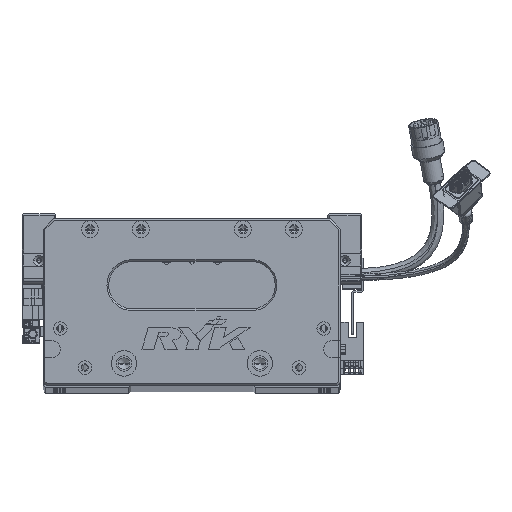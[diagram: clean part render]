
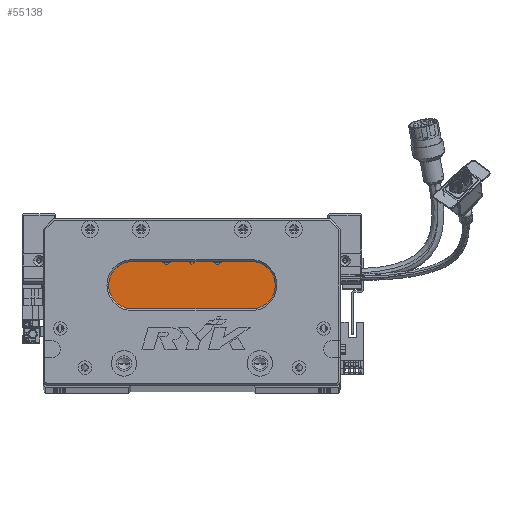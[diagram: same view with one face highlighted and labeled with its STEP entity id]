
A CAD part, top view. The second image highlights one B-rep face of the part: STEP entity #55138.
In plain terms, the highlighted planar face has unit normal (0, 0, 1) as drawn and (0, 0, -1) by its records, which use the part's own axes.
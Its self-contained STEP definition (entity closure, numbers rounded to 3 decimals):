
#622 = VERTEX_POINT ( 'NONE', #48852 ) ;
#1845 = DIRECTION ( 'NONE',  ( -1., 0., 0. ) ) ;
#5445 = EDGE_CURVE ( 'NONE', #97020, #65671, #70111, .T. ) ;
#12237 = CIRCLE ( 'NONE', #69090, 14. ) ;
#14495 = ORIENTED_EDGE ( 'NONE', *, *, #34569, .T. ) ;
#19659 = ORIENTED_EDGE ( 'NONE', *, *, #56434, .T. ) ;
#19849 = PLANE ( 'NONE',  #98344 ) ;
#20281 = DIRECTION ( 'NONE',  ( -1., 0., 0. ) ) ;
#20937 = DIRECTION ( 'NONE',  ( -1., 0., 0. ) ) ;
#20944 = CARTESIAN_POINT ( 'NONE',  ( 122.5, 73., 18. ) ) ;
#21064 = DIRECTION ( 'NONE',  ( 0., 0., -1. ) ) ;
#23952 = DIRECTION ( 'NONE',  ( 0., 0., -1. ) ) ;
#27694 = LINE ( 'NONE', #20944, #96627 ) ;
#29127 = VERTEX_POINT ( 'NONE', #74413 ) ;
#34569 = EDGE_CURVE ( 'NONE', #622, #29127, #27694, .T. ) ;
#35563 = AXIS2_PLACEMENT_3D ( 'NONE', #65098, #21064, #20281 ) ;
#37967 = DIRECTION ( 'NONE',  ( 0., 0., -1. ) ) ;
#39141 = LINE ( 'NONE', #69833, #72846 ) ;
#41694 = DIRECTION ( 'NONE',  ( -1., 0., 0. ) ) ;
#41765 = ORIENTED_EDGE ( 'NONE', *, *, #5445, .T. ) ;
#48852 = CARTESIAN_POINT ( 'NONE',  ( 52.5, 73., 18. ) ) ;
#55138 = ADVANCED_FACE ( 'NONE', ( #71719 ), #19849, .T. ) ;
#55613 = CARTESIAN_POINT ( 'NONE',  ( 122.5, 59., 18. ) ) ;
#56434 = EDGE_CURVE ( 'NONE', #62616, #97020, #39141, .T. ) ;
#60919 = CIRCLE ( 'NONE', #35563, 14. ) ;
#61303 = CARTESIAN_POINT ( 'NONE',  ( 122.5, 45., 18. ) ) ;
#61428 = CARTESIAN_POINT ( 'NONE',  ( 52.5, 45., 18. ) ) ;
#62616 = VERTEX_POINT ( 'NONE', #61303 ) ;
#63777 = EDGE_LOOP ( 'NONE', ( #112012, #19659, #41765, #107600, #14495 ) ) ;
#65098 = CARTESIAN_POINT ( 'NONE',  ( 122.5, 59., 18. ) ) ;
#65671 = VERTEX_POINT ( 'NONE', #76833 ) ;
#66959 = DIRECTION ( 'NONE',  ( 1., 0., 0. ) ) ;
#69090 = AXIS2_PLACEMENT_3D ( 'NONE', #86038, #23952, #41694 ) ;
#69833 = CARTESIAN_POINT ( 'NONE',  ( 122.5, 45., 18. ) ) ;
#70111 = CIRCLE ( 'NONE', #101834, 14. ) ;
#71719 = FACE_OUTER_BOUND ( 'NONE', #63777, .T. ) ;
#72846 = VECTOR ( 'NONE', #86699, 1000. ) ;
#74413 = CARTESIAN_POINT ( 'NONE',  ( 122.5, 73., 18. ) ) ;
#76833 = CARTESIAN_POINT ( 'NONE',  ( 38.5, 59., 18. ) ) ;
#82423 = EDGE_CURVE ( 'NONE', #29127, #62616, #60919, .T. ) ;
#83054 = DIRECTION ( 'NONE',  ( 0., 0., -1. ) ) ;
#86038 = CARTESIAN_POINT ( 'NONE',  ( 52.5, 59., 18. ) ) ;
#86699 = DIRECTION ( 'NONE',  ( -1., 0., 0. ) ) ;
#88456 = EDGE_CURVE ( 'NONE', #65671, #622, #12237, .T. ) ;
#96627 = VECTOR ( 'NONE', #66959, 1000. ) ;
#97020 = VERTEX_POINT ( 'NONE', #61428 ) ;
#98344 = AXIS2_PLACEMENT_3D ( 'NONE', #55613, #37967, #1845 ) ;
#101610 = CARTESIAN_POINT ( 'NONE',  ( 52.5, 59., 18. ) ) ;
#101834 = AXIS2_PLACEMENT_3D ( 'NONE', #101610, #83054, #20937 ) ;
#107600 = ORIENTED_EDGE ( 'NONE', *, *, #88456, .T. ) ;
#112012 = ORIENTED_EDGE ( 'NONE', *, *, #82423, .T. ) ;
